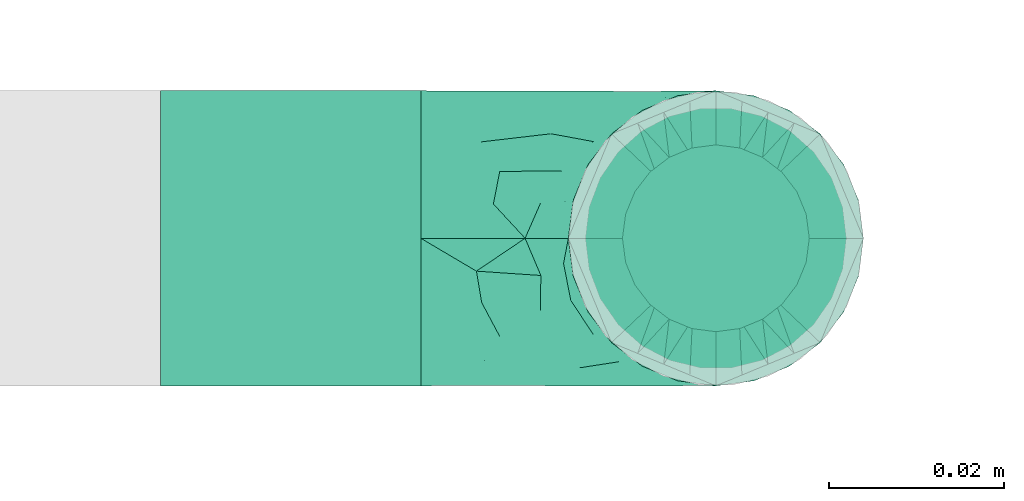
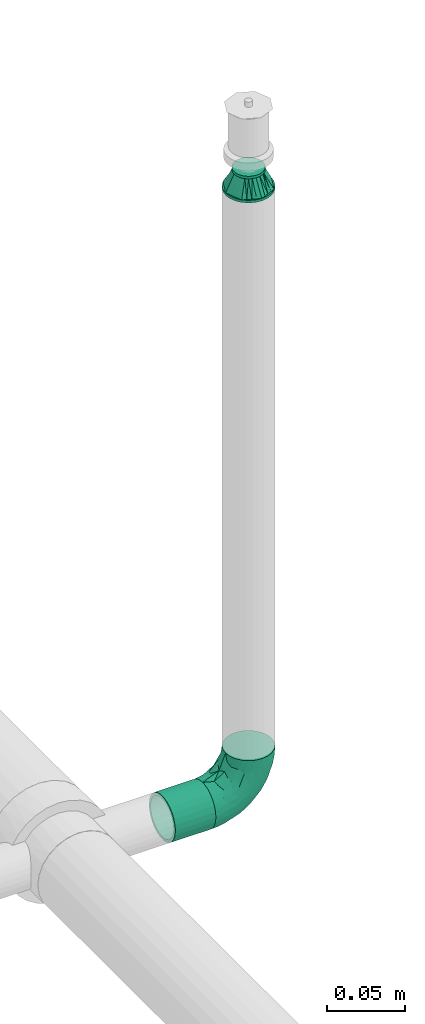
# One storey, part 106 of 157: 2 flow fittings, 1 flow segment.
"""IFC2X3 building model written with IfcOpenShell, lengths in millimetres."""

from ifc_helpers import new_model, entity, si_unit, converted_unit, derived_unit, direction, frame, origin_with_axes, origin_2d_with_axis, place, context, subcontext, project, spatial, hollow_circle, extrude, open_shell, surface_model, source, transform, mapped, type_object, element, save


model = new_model("IFC2X3")

# Units and contexts
model_context = context("Model", 3, precision=0.01, world=frame((0.0, 4.29681676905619e-09, 0.0)), true_north=direction((4.01073788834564e-13, 1.0)))
plan_context = context("Plan", 3, precision=0.01, world=frame((0.0, 4.29681676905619e-09, 0.0)), true_north=direction((4.01073788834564e-13, 1.0)))
body_context = subcontext(model_context, "Body", "Model", "MODEL_VIEW")
ifc_project = project(units=[converted_unit("PLANEANGLEUNIT", "DEGREE", entity("IfcPositiveLengthMeasure", 0.0174532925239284), si_unit("PLANEANGLEUNIT", "RADIAN"), dimensions=[0, 0, 0, 0, 0, 0, 0]), si_unit("AREAUNIT", "SQUARE_METRE"), si_unit("LENGTHUNIT", "METRE", prefix="MILLI"), si_unit("MASSUNIT", "GRAM", prefix="KILO"), si_unit("POWERUNIT", "WATT"), si_unit("PRESSUREUNIT", "PASCAL"), si_unit("FORCEUNIT", "NEWTON", prefix="KILO"), si_unit("ELECTRICCURRENTUNIT", "AMPERE"), si_unit("THERMODYNAMICTEMPERATUREUNIT", "DEGREE_CELSIUS"), si_unit("TIMEUNIT", "SECOND"), si_unit("VOLUMEUNIT", "CUBIC_METRE"), derived_unit("LINEARVELOCITYUNIT", [(si_unit("LENGTHUNIT", "METRE"), 1), (si_unit("TIMEUNIT", "SECOND"), -1)]), derived_unit("VOLUMETRICFLOWRATEUNIT", [(si_unit("VOLUMEUNIT", "CUBIC_METRE"), 1), (si_unit("TIMEUNIT", "SECOND"), -1)]), derived_unit("THERMALTRANSMITTANCEUNIT", [(si_unit("POWERUNIT", "WATT"), 1), (si_unit("THERMODYNAMICTEMPERATUREUNIT", "KELVIN"), -1), (si_unit("AREAUNIT", "SQUARE_METRE"), -1)])], contexts=[model_context, plan_context])

# Site, building, storey
site_placement = place(None, frame((0.0, -4.29681676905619e-09, 0.0), z_axis=(0.0, 0.0, 1.0), x_axis=(1.0, 0.0, 0.0)))
site = spatial("IfcSite", under=ifc_project, at=site_placement, CompositionType="ELEMENT")
building_placement = place(site_placement, frame((0.0, 4.29681676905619e-09, 0.0), z_axis=(0.0, 0.0, 1.0), x_axis=(1.0, 0.0, 0.0)))
building = spatial("IfcBuilding", under=site, at=building_placement, Name="mc-building", CompositionType="ELEMENT")
storey_placement = place(building_placement, frame((0.0, 0.0, 204000.0), z_axis=(0.0, 0.0, 1.0), x_axis=(1.0, 0.0, 0.0)))
storey = spatial("IfcBuildingStorey", under=building, at=storey_placement, Name="Nivå D", CompositionType="ELEMENT", Elevation=204000.0)

# Flow fittings
pipe_fitting_type_1 = type_object("IfcPipeFittingType", Name="magi_pipe_fe_elbow_short_001", PredefinedType="BEND")
shared_shape_1 = source(origin_with_axes(), body_context, "Body", "SurfaceModel", [
    surface_model("IfcShellBasedSurfaceModel", [(-33.8, 8.45, -14.63583), (-33.8, 4.37404, -16.32415), (-33.8, 11.9501, -11.9501), (-33.8, -11.9501, -11.9501), (-33.8, -14.63583, -8.45), (-33.8, -8.45, -14.63583), (-33.8, 0.0, -16.9), (-33.8, -4.37404, -16.32415), (-33.8, -4.37404, 16.32415), (-33.8, 0.0, 16.9), (-33.8, -8.45, 14.63583), (-33.8, 16.32415, -4.37404), (-33.8, 14.63583, -8.45), (-33.8, -16.32415, -4.37404), (-33.8, -16.9, 0.0), (-33.8, -16.32415, 4.37404), (-33.8, 11.9501, 11.9501), (-33.8, 14.63583, 8.45), (-33.8, 16.32415, 4.37404), (-33.8, 4.37404, 16.32415), (-33.8, 8.45, 14.63583), (-33.8, -14.63583, 8.45), (-33.8, -11.9501, 11.9501), (-33.8, 16.9, 0.0), (-11.9501, 33.8, -11.9501), (0.0, 33.8, -16.9), (-4.37404, 33.8, -16.32415), (-8.45, 33.8, -14.63583), (-14.63583, 33.8, -8.45), (-16.32415, 33.8, -4.37404), (14.63583, 33.8, -8.45), (8.45, 33.8, 14.63583), (16.32415, 33.8, -4.37404), (8.45, 33.8, -14.63583), (11.9501, 33.8, -11.9501), (4.37404, 33.8, -16.32415), (16.32415, 33.8, 4.37404), (16.9, 33.8, 0.0), (-11.9501, 33.8, 11.9501), (-16.32415, 33.8, 4.37404), (-14.63583, 33.8, 8.45), (-8.45, 33.8, 14.63583), (-4.37404, 33.8, 16.32415), (11.9501, 33.8, 11.9501), (14.63583, 33.8, 8.45), (0.0, 33.8, 16.9), (4.37404, 33.8, 16.32415), (-16.9, 33.8, 0.0), (-24.79389, -13.12945, 9.48721), (-22.19287, -9.75018, 12.59315), (-24.09897, -14.97035, 0.0), (-14.93934, -10.76256, 8.5297), (-22.46095, -14.75051, 5.27077), (14.75051, 22.46094, 5.27077), (11.9251, 13.23888, 4.33236), (13.04069, 14.39795, 0.0), (7.71387, 13.68847, 11.55891), (9.75018, 22.19287, 12.59315), (4.10169, 13.0571, 14.04018), (-24.84007, -6.39063, 15.2048), (-25.81779, -2.23879, 16.61097), (-23.66549, 2.59054, 16.87119), (-26.50418, 14.06512, 11.08152), (-24.21253, 17.66365, 7.72657), (-29.58514, 15.86957, 7.00283), (-6.17382, -7.5455, 0.0), (-13.23888, -11.9251, 4.33236), (-14.39795, -13.04069, 0.0), (-17.81434, 18.87373, 11.97104), (-6.30846, 29.15138, 15.82987), (-2.31622, 25.28002, 16.85849), (-29.23923, 10.23435, 13.77053), (-1.45439, -2.85688, 7.61475), (-0.28326, 0.34872, 10.09509), (-5.74484, -4.04709, 10.4122), (-4.41137, 11.31918, 16.59407), (-8.39727, 3.10034, 15.7812), (-1.72649, 9.1306, 15.53089), (-17.39909, 24.75344, 7.64977), (-26.19233, 20.0512, 0.0), (-28.14518, 17.29657, 4.25857), (-26.05147, 6.6281, 15.96447), (-5.87354, 16.61944, 16.86968), (-12.51807, 12.51807, 16.48937), (-10.06312, 7.38516, 16.81295), (-3.01882, 3.01882, 13.81718), (-13.0571, -4.10169, 14.04018), (-16.82553, -0.15166, 16.38038), (10.76256, 14.93934, 8.5297), (13.12945, 24.79389, 9.48721), (6.39063, 24.84007, 15.2048), (2.23879, 25.81779, 16.61097), (-13.68847, -7.71387, 11.55891), (14.97035, 24.09897, 0.0), (-7.30894, 22.89991, 16.09489), (-10.67958, 26.17414, 14.008), (-12.78295, 18.26924, 15.06066), (-13.88562, 22.45231, 12.93244), (-18.04944, 15.16501, 14.04434), (-23.11658, 20.08178, 4.02986), (-21.84989, 21.84989, 0.0), (-18.55817, 25.48277, 3.93065), (-13.95142, 26.94732, 11.03289), (-18.57098, 7.23906, 16.59756), (-16.58335, 4.14122, 16.89279), (-17.96666, 11.46709, 15.63151), (-9.84453, 17.54304, 16.18938), (0.15166, 16.82553, 16.38038), (-23.27207, 11.47201, 14.23154), (3.84842, 5.86994, 10.70473), (-8.0212, -7.54413, 7.93275), (1.00345, -2.19508, 4.57414), (5.13203, 3.01004, 5.90201), (5.24161, 1.7543, 2.53265), (8.70457, 7.04947, 3.99182), (-20.0512, 26.19233, 0.0), (8.4852, 8.76699, 7.09296), (-4.55488, -6.72064, 4.90681), (2.05031, -2.05031, 0.0), (7.5455, 6.17382, 0.0), (-26.75399, 2.1369, -16.845), (-14.61995, 24.73803, -11.27736), (-28.45274, -13.45335, -9.81895), (-26.00469, 6.63555, -15.96645), (-23.06726, 20.04573, -4.26202), (-13.80647, -4.26506, -14.17873), (-14.67501, -0.21081, -16.07388), (-6.7902, -0.2828, -13.8478), (-24.53586, 11.08096, -14.13417), (-26.72048, 14.00837, -11.05776), (10.0967, 24.44989, -12.75976), (5.83237, 21.40218, -15.03047), (6.66249, 28.54238, -15.38093), (-20.38182, 15.48705, -12.74596), (12.53268, 21.23441, -9.15363), (12.54494, 15.67504, -5.54878), (9.7522, 12.89279, -8.66343), (-15.65186, 19.64213, -13.01327), (-12.03528, 20.66498, -14.67665), (-15.61907, 15.61906, -14.83879), (-25.56551, -15.26206, 0.0), (-24.65452, -15.12934, -5.50955), (13.45335, 28.45274, -9.81895), (15.12934, 24.65452, -5.50955), (-7.35442, -8.31014, -5.65563), (-15.67504, -12.54494, -5.54878), (-24.44989, -10.0967, -12.75976), (0.16522, 0.41303, -9.71728), (-5.70658, -5.33066, -8.89288), (-5.13869, -2.37198, -11.53565), (-21.23441, -12.53268, -9.15363), (0.71146, 7.93863, -14.09382), (0.21081, 14.67501, -16.07388), (3.49291, 14.42772, -14.76381), (-24.89911, -2.13088, -16.591), (-28.54238, -6.66249, -15.38093), (-18.44386, -7.71663, -13.26957), (2.13088, 24.89911, -16.591), (-28.64342, 17.44413, -2.89318), (1.70017, -1.28722, -5.09504), (-16.57067, 26.81947, -7.36596), (-17.69055, 27.4263, -3.76405), (-12.89279, -9.7522, -8.66343), (-5.96611, 5.96611, -15.95814), (-20.53709, 20.09345, -8.28985), (-2.1369, 26.75399, -16.845), (-6.89872, 24.58781, -16.02578), (-10.60739, 26.53157, -13.98044), (-21.40218, -5.83237, -15.03047), (2.93192, 5.89627, -11.55917), (6.89393, 12.61842, -11.82233), (5.58056, 5.95325, -8.79455), (-3.99512, 18.61798, -16.89635), (8.31014, 7.35442, -5.65563), (-9.1383, 9.86148, -16.89041), (-9.99983, 16.02119, -16.39699), (-16.68576, 9.78031, -16.34199), (-27.01915, 16.61158, -7.12979), (15.26206, 25.56551, 0.0), (-18.61798, 3.99512, -16.89635), (-19.37495, 27.82495, 0.0), (-12.61842, -6.89393, -11.82233), (-18.84705, 19.14018, -10.96545)], [open_shell([[[0, 1, 2]], [[3, 4, 5]], [[6, 7, 5]], [[8, 9, 10]], [[1, 6, 2]], [[11, 12, 2]], [[4, 2, 6]], [[2, 13, 10]], [[5, 4, 6]], [[2, 4, 13]], [[14, 15, 13]], [[11, 2, 16]], [[11, 17, 18]], [[11, 16, 17]], [[19, 20, 16]], [[16, 2, 10]], [[19, 16, 10]], [[21, 22, 15]], [[22, 13, 15]], [[22, 10, 13]], [[10, 9, 19]], [[11, 18, 23]], [[24, 25, 26]], [[24, 26, 27]], [[24, 28, 29]], [[25, 24, 30]], [[31, 32, 24]], [[33, 30, 34]], [[33, 35, 25]], [[25, 30, 33]], [[32, 30, 24]], [[32, 36, 37]], [[38, 24, 29]], [[39, 40, 29]], [[40, 38, 29]], [[38, 41, 42]], [[38, 31, 24]], [[31, 38, 42]], [[36, 43, 44]], [[36, 32, 43]], [[31, 45, 46]], [[32, 31, 43]], [[42, 45, 31]], [[39, 29, 47]], [[22, 48, 49]], [[15, 14, 50]], [[51, 48, 52]], [[53, 54, 55]], [[48, 22, 21]], [[15, 52, 21]], [[56, 57, 58]], [[49, 10, 22]], [[49, 59, 10]], [[9, 60, 61]], [[62, 63, 64]], [[65, 66, 67]], [[57, 43, 31]], [[62, 68, 63]], [[42, 69, 70]], [[20, 71, 16]], [[8, 60, 9]], [[72, 73, 74]], [[75, 76, 77]], [[16, 62, 17]], [[40, 39, 78]], [[79, 23, 80]], [[64, 18, 17]], [[9, 61, 19]], [[19, 81, 20]], [[82, 83, 84]], [[74, 85, 86]], [[59, 86, 87]], [[88, 89, 57]], [[90, 31, 46]], [[44, 53, 36]], [[46, 45, 91]], [[54, 53, 88]], [[44, 89, 53]], [[92, 86, 49]], [[89, 44, 43]], [[10, 59, 8]], [[53, 55, 93]], [[93, 36, 53]], [[66, 52, 67]], [[94, 82, 70]], [[95, 96, 94]], [[97, 98, 96]], [[79, 99, 100]], [[41, 38, 95]], [[101, 100, 99]], [[68, 78, 63]], [[42, 41, 69]], [[23, 18, 80]], [[95, 94, 69]], [[78, 101, 99]], [[38, 102, 95]], [[70, 45, 42]], [[97, 95, 102]], [[15, 50, 52]], [[90, 57, 31]], [[57, 90, 58]], [[81, 19, 61]], [[103, 104, 84]], [[105, 81, 103]], [[38, 40, 102]], [[106, 96, 83]], [[94, 106, 82]], [[91, 70, 107]], [[71, 62, 16]], [[62, 108, 98]], [[86, 59, 49]], [[67, 52, 50]], [[60, 59, 87]], [[92, 49, 51]], [[86, 85, 76]], [[91, 90, 46]], [[37, 36, 93]], [[107, 77, 58]], [[107, 58, 90]], [[58, 85, 109]], [[110, 74, 92]], [[72, 74, 110]], [[66, 51, 52]], [[72, 111, 112]], [[113, 114, 112]], [[56, 88, 57]], [[52, 48, 21]], [[49, 48, 51]], [[57, 89, 43]], [[53, 89, 88]], [[103, 81, 61]], [[71, 81, 108]], [[18, 64, 80]], [[63, 78, 99]], [[47, 115, 101]], [[101, 115, 100]], [[40, 78, 102]], [[68, 102, 78]], [[97, 96, 95]], [[105, 98, 108]], [[103, 84, 83]], [[107, 70, 82]], [[76, 84, 87]], [[82, 84, 75]], [[70, 91, 45]], [[90, 91, 107]], [[59, 60, 8]], [[61, 60, 87]], [[73, 85, 74]], [[109, 112, 116]], [[103, 61, 104]], [[105, 103, 83]], [[96, 105, 83]], [[81, 105, 108]], [[96, 98, 105]], [[62, 98, 68]], [[61, 87, 104]], [[87, 84, 104]], [[86, 76, 87]], [[77, 76, 85]], [[58, 77, 85]], [[75, 77, 107]], [[82, 75, 107]], [[76, 75, 84]], [[81, 71, 20]], [[62, 71, 108]], [[95, 69, 41]], [[70, 69, 94]], [[62, 64, 17]], [[80, 63, 99]], [[63, 80, 64]], [[80, 99, 79]], [[66, 65, 117]], [[110, 66, 117]], [[112, 114, 116]], [[118, 117, 65]], [[110, 92, 51]], [[112, 111, 113]], [[119, 55, 54]], [[74, 86, 92]], [[58, 109, 56]], [[116, 56, 109]], [[66, 110, 51]], [[72, 110, 117]], [[111, 72, 117]], [[73, 112, 109]], [[117, 118, 111]], [[113, 111, 118]], [[118, 119, 113]], [[114, 119, 54]], [[119, 114, 113]], [[116, 54, 88]], [[54, 116, 114]], [[116, 88, 56]], [[112, 73, 72]], [[85, 73, 109]], [[78, 39, 101]], [[47, 101, 39]], [[102, 68, 97]], [[97, 68, 98]], [[82, 106, 83]], [[94, 96, 106]], [[1, 120, 6]], [[28, 24, 121]], [[3, 122, 4]], [[0, 123, 1]], [[100, 124, 79]], [[125, 126, 127]], [[128, 2, 129]], [[130, 131, 132]], [[128, 129, 133]], [[134, 135, 136]], [[137, 138, 139]], [[128, 0, 2]], [[67, 140, 141]], [[134, 142, 143]], [[141, 13, 4]], [[144, 65, 145]], [[146, 3, 5]], [[147, 148, 149]], [[145, 141, 150]], [[151, 152, 153]], [[154, 7, 6]], [[5, 155, 146]], [[150, 146, 156]], [[155, 5, 7]], [[143, 135, 134]], [[35, 157, 25]], [[23, 79, 158]], [[148, 159, 144]], [[160, 161, 29]], [[145, 162, 144]], [[163, 152, 151]], [[29, 28, 160]], [[121, 164, 160]], [[33, 34, 130]], [[25, 165, 26]], [[26, 165, 166]], [[142, 34, 30]], [[24, 27, 167]], [[124, 161, 164]], [[157, 35, 132]], [[155, 154, 168]], [[123, 0, 128]], [[169, 170, 171]], [[172, 157, 152]], [[26, 166, 27]], [[132, 35, 33]], [[142, 130, 34]], [[168, 154, 126]], [[136, 135, 173]], [[133, 137, 139]], [[2, 12, 129]], [[170, 131, 130]], [[30, 32, 143]], [[172, 174, 175]], [[176, 123, 128]], [[158, 177, 11]], [[135, 55, 119]], [[167, 27, 166]], [[175, 166, 172]], [[137, 167, 138]], [[122, 141, 4]], [[140, 14, 13]], [[32, 37, 178]], [[170, 130, 134]], [[152, 157, 131]], [[165, 157, 172]], [[153, 170, 151]], [[152, 163, 174]], [[168, 125, 156]], [[122, 146, 150]], [[120, 154, 6]], [[179, 174, 126]], [[179, 126, 154]], [[126, 163, 127]], [[162, 145, 150]], [[140, 13, 141]], [[32, 178, 143]], [[55, 143, 178]], [[177, 129, 12]], [[128, 133, 139]], [[176, 128, 139]], [[120, 123, 179]], [[121, 160, 28]], [[161, 100, 180]], [[166, 175, 138]], [[121, 24, 167]], [[161, 47, 29]], [[79, 124, 158]], [[124, 164, 177]], [[161, 124, 100]], [[136, 171, 170]], [[127, 163, 151]], [[147, 171, 159]], [[148, 144, 162]], [[127, 151, 169]], [[127, 181, 125]], [[129, 177, 164]], [[12, 11, 177]], [[159, 65, 144]], [[67, 141, 145]], [[143, 55, 135]], [[135, 119, 173]], [[123, 120, 1]], [[154, 120, 179]], [[157, 165, 25]], [[166, 165, 172]], [[172, 152, 174]], [[176, 139, 175]], [[126, 174, 163]], [[176, 174, 179]], [[174, 176, 175]], [[123, 176, 179]], [[150, 181, 162]], [[127, 149, 181]], [[181, 148, 162]], [[159, 148, 147]], [[171, 136, 173]], [[170, 134, 136]], [[159, 171, 173]], [[171, 147, 169]], [[169, 147, 149]], [[151, 170, 169]], [[164, 182, 129]], [[182, 121, 137]], [[181, 149, 148]], [[169, 149, 127]], [[182, 137, 133]], [[167, 137, 121]], [[166, 138, 167]], [[175, 139, 138]], [[129, 182, 133]], [[121, 182, 164]], [[161, 160, 164]], [[47, 161, 180]], [[177, 158, 124]], [[23, 158, 11]], [[130, 132, 33]], [[157, 132, 131]], [[143, 142, 30]], [[130, 142, 134]], [[154, 155, 7]], [[146, 155, 168]], [[146, 122, 3]], [[141, 122, 150]], [[152, 131, 153]], [[159, 119, 118]], [[67, 145, 65]], [[170, 153, 131]], [[119, 159, 173]], [[159, 118, 65]], [[156, 125, 181]], [[126, 125, 168]], [[150, 156, 181]], [[168, 156, 146]]])]),
])
flow_fitting_1_placement = place(storey_placement, frame((531240.35, 413380.00018, 2690.0), z_axis=(0.0, 1.0, 0.0), x_axis=(0.0, 0.0, -1.0)))
element("IfcFlowFitting", 1, at=flow_fitting_1_placement, inside=storey, type_object=pipe_fitting_type_1, Name="magi_pipe_fe_elbow_short_001", context=body_context, shape_type="MappedRepresentation", body=[
    mapped(shared_shape_1, transform((0.0, 0.0, 0.0), scale=1.0)),
])
pipe_fitting_type_2 = type_object("IfcPipeFittingType", Name="magi_pipe_fe_reducer_centric_short_NOR", PredefinedType="TRANSITION")
shared_shape_2 = source(origin_with_axes(), body_context, "Body", "SurfaceModel", [
    surface_model("IfcShellBasedSurfaceModel", [(-2.0, -7.56604, -7.56604), (-2.0, -10.33541, -2.76936), (-2.0, -5.35, -9.26647), (-2.0, 5.35, -9.26647), (-2.0, 10.33541, -2.76936), (-2.0, 7.56604, -7.56604), (12.4, 11.9501, 11.9501), (12.4, 0.0, 16.9), (12.4, 11.9501, -11.9501), (12.4, 16.9, 0.0), (0.0, -10.7, 0.0), (0.0, -5.35, 9.26647), (0.0, -5.35, -9.26647), (0.0, 10.7, 0.0), (12.4, 15.66253, -2.98753), (12.4, 8.96258, -13.18758), (0.0, 6.6875, -6.94985), (12.4, -15.66253, -2.98753), (12.4, -16.9, 0.0), (12.4, 5.97505, -14.42505), (0.0, 5.35, -9.26647), (12.4, 14.42505, -5.97505), (0.0, 8.025, -4.63324), (0.0, 9.3625, -2.31662), (0.0, -9.3625, -2.31662), (0.0, -8.025, -4.63324), (12.4, -14.42505, -5.97505), (12.4, 13.18758, -8.96258), (12.4, -13.18758, -8.96258), (12.4, -11.9501, -11.9501), (0.0, -6.6875, -6.94985), (12.4, -8.96258, -13.18758), (12.4, -5.97505, -14.42505), (12.4, -15.66253, 2.98753), (12.4, -8.96258, 13.18758), (0.0, -6.6875, 6.94985), (12.4, -11.9501, 11.9501), (12.4, 15.66253, 2.98753), (12.4, -5.97505, 14.42505), (12.4, -14.42505, 5.97505), (0.0, -8.025, 4.63324), (0.0, -9.3625, 2.31662), (0.0, 9.3625, 2.31662), (0.0, 8.025, 4.63324), (12.4, 14.42505, 5.97505), (12.4, -13.18758, 8.96258), (12.4, 13.18758, 8.96258), (0.0, 6.6875, 6.94985), (12.4, 8.96258, 13.18758), (0.0, 5.35, 9.26647), (12.4, 5.97505, 14.42505), (14.4, 4.37404, -16.32415), (14.4, 8.45, -14.63583), (14.4, 11.9501, -11.9501), (14.4, -8.45, -14.63583), (14.4, 16.32415, -4.37404), (14.4, 16.32415, 4.37404), (14.4, 14.63583, -8.45), (14.4, 0.0, -16.9), (14.4, -4.37404, -16.32415), (14.4, -11.9501, -11.9501), (14.4, -16.32415, -4.37404), (14.4, -14.63583, -8.45), (14.4, -16.32415, 4.37404), (14.4, 16.9, 0.0), (14.4, 14.63583, 8.45), (14.4, 11.9501, 11.9501), (14.4, 4.37404, 16.32415), (14.4, 8.45, 14.63583), (14.4, 0.0, 16.9), (14.4, -14.63583, 8.45), (14.4, -16.9, 0.0), (14.4, -8.45, 14.63583), (14.4, -11.9501, 11.9501), (14.4, -4.37404, 16.32415), (12.4, 4.37404, 16.32415), (12.4, -14.63583, 8.45), (12.4, 16.32415, 4.37404), (12.4, 8.45, 14.63583), (12.4, 14.63583, 8.45), (12.4, -8.45, 14.63583), (12.4, -4.37404, 16.32415), (12.4, -16.32415, 4.37404), (12.4, -16.32415, -4.37404), (12.4, -8.45, -14.63583), (12.4, 16.32415, -4.37404), (12.4, 14.63583, -8.45), (12.4, 8.45, -14.63583), (12.4, 4.37404, -16.32415), (12.4, 0.0, -16.9), (12.4, -14.63583, -8.45), (12.4, -4.37404, -16.32415), (-2.0, 2.76936, 10.33541), (-2.0, 0.0, 10.7), (-2.0, 5.35, 9.26647), (-2.0, 7.56604, 7.56604), (-2.0, 9.26647, 5.35), (-2.0, 10.33541, 2.76936), (-2.0, -10.33541, 2.76936), (-2.0, -2.76936, 10.33541), (-2.0, -7.56604, 7.56604), (-2.0, -5.35, 9.26647), (-2.0, -9.26647, 5.35), (-2.0, -10.7, 0.0), (-2.0, 9.26647, -5.35), (-2.0, 2.76936, -10.33541), (-2.0, -9.26647, -5.35), (-2.0, 0.0, -10.7), (-2.0, -2.76936, -10.33541), (-2.0, 10.7, 0.0), (0.0, 0.0, -10.7), (0.0, 2.76936, -10.33541), (0.0, 10.33541, -2.76936), (0.0, 7.56604, -7.56604), (0.0, -10.33541, -2.76936), (0.0, 9.26647, -5.35), (0.0, 0.0, 10.7), (0.0, -2.76936, -10.33541), (0.0, -7.56604, -7.56604), (0.0, -9.26647, -5.35), (0.0, 10.33541, 2.76936), (0.0, 9.26647, 5.35), (0.0, 7.56604, 7.56604), (0.0, 2.76936, 10.33541), (0.0, -7.56604, 7.56604), (0.0, -10.33541, 2.76936), (0.0, -9.26647, 5.35), (0.0, -2.76936, 10.33541), (0.0, 2.675, -9.26647), (0.0, -2.675, -9.26647), (12.4, 2.98753, -15.66253), (0.0, 0.0, -9.26647), (12.4, -2.98753, -15.66253), (0.0, -2.675, 9.26647), (0.0, 2.675, 9.26647), (12.4, -2.98753, 15.66253), (0.0, 0.0, 9.26647), (12.4, 2.98753, 15.66253)], [open_shell([[[0, 1, 2]], [[3, 4, 5]], [[6, 7, 8]], [[8, 9, 6]], [[10, 11, 12]], [[13, 9, 14]], [[15, 16, 8]], [[17, 18, 10]], [[15, 19, 20]], [[21, 22, 23]], [[24, 25, 26]], [[22, 21, 27]], [[28, 26, 25]], [[29, 30, 31]], [[12, 32, 31]], [[10, 18, 33]], [[34, 35, 36]], [[37, 9, 13]], [[34, 38, 11]], [[39, 40, 41]], [[42, 43, 44]], [[40, 39, 45]], [[46, 44, 43]], [[6, 47, 48]], [[49, 50, 48]], [[51, 52, 53]], [[54, 51, 53]], [[53, 55, 56]], [[55, 53, 57]], [[53, 56, 54]], [[58, 54, 59]], [[58, 51, 54]], [[60, 61, 62]], [[61, 60, 54]], [[54, 63, 61]], [[56, 55, 64]], [[56, 65, 66]], [[56, 66, 67]], [[67, 63, 54]], [[67, 66, 68]], [[63, 67, 69]], [[69, 70, 63]], [[71, 61, 63]], [[70, 72, 73]], [[70, 69, 72]], [[72, 69, 74]], [[54, 56, 67]], [[75, 76, 7]], [[77, 75, 78]], [[6, 79, 77]], [[6, 77, 78]], [[76, 75, 77]], [[80, 76, 36]], [[80, 81, 7]], [[7, 76, 80]], [[82, 76, 77]], [[82, 83, 18]], [[82, 77, 84]], [[77, 85, 8]], [[8, 85, 86]], [[8, 87, 88]], [[84, 77, 8]], [[88, 89, 8]], [[83, 29, 90]], [[29, 83, 84]], [[84, 89, 91]], [[83, 82, 84]], [[8, 89, 84]], [[85, 77, 9]], [[83, 61, 18]], [[90, 62, 83]], [[54, 29, 84]], [[90, 29, 60]], [[59, 84, 91]], [[83, 62, 61]], [[61, 71, 18]], [[59, 54, 84]], [[60, 29, 54]], [[60, 62, 90]], [[58, 59, 91]], [[91, 89, 58]], [[88, 51, 89]], [[87, 52, 88]], [[57, 8, 86]], [[87, 8, 53]], [[55, 86, 85]], [[87, 53, 52]], [[52, 51, 88]], [[64, 55, 85]], [[57, 86, 55]], [[57, 53, 8]], [[9, 64, 85]], [[89, 51, 58]], [[77, 56, 9]], [[79, 65, 77]], [[68, 6, 78]], [[79, 6, 66]], [[67, 78, 75]], [[77, 65, 56]], [[56, 64, 9]], [[67, 68, 78]], [[66, 6, 68]], [[66, 65, 79]], [[69, 67, 75]], [[75, 7, 69]], [[81, 74, 7]], [[80, 72, 81]], [[70, 36, 76]], [[80, 36, 73]], [[63, 76, 82]], [[80, 73, 72]], [[72, 74, 81]], [[71, 63, 82]], [[70, 76, 63]], [[70, 73, 36]], [[18, 71, 82]], [[7, 74, 69]], [[92, 1, 93]], [[94, 1, 92]], [[95, 96, 97]], [[95, 97, 94]], [[98, 93, 1]], [[99, 100, 101]], [[99, 93, 100]], [[100, 98, 102]], [[93, 98, 100]], [[98, 1, 103]], [[94, 97, 1]], [[1, 97, 4]], [[5, 4, 104]], [[4, 3, 1]], [[105, 1, 3]], [[1, 0, 106]], [[2, 107, 108]], [[2, 1, 105]], [[105, 107, 2]], [[4, 97, 109]], [[20, 110, 111]], [[112, 20, 113]], [[114, 20, 112]], [[112, 113, 115]], [[116, 114, 112]], [[110, 12, 117]], [[110, 20, 12]], [[118, 114, 119]], [[114, 118, 12]], [[20, 114, 12]], [[112, 13, 120]], [[120, 121, 122]], [[120, 122, 123]], [[116, 112, 123]], [[123, 122, 49]], [[116, 124, 114]], [[125, 124, 126]], [[10, 114, 125]], [[124, 127, 11]], [[125, 114, 124]], [[127, 124, 116]], [[123, 112, 120]], [[1, 114, 103]], [[106, 119, 1]], [[12, 0, 2]], [[106, 0, 118]], [[117, 2, 108]], [[1, 119, 114]], [[114, 10, 103]], [[117, 12, 2]], [[118, 0, 12]], [[118, 119, 106]], [[110, 117, 108]], [[108, 107, 110]], [[105, 111, 107]], [[3, 20, 105]], [[115, 5, 104]], [[3, 5, 113]], [[112, 104, 4]], [[3, 113, 20]], [[20, 111, 105]], [[13, 112, 4]], [[115, 104, 112]], [[115, 113, 5]], [[109, 13, 4]], [[107, 111, 110]], [[97, 120, 109]], [[96, 121, 97]], [[49, 95, 94]], [[96, 95, 122]], [[123, 94, 92]], [[97, 121, 120]], [[120, 13, 109]], [[123, 49, 94]], [[122, 95, 49]], [[122, 121, 96]], [[116, 123, 92]], [[92, 93, 116]], [[99, 127, 93]], [[101, 11, 99]], [[126, 100, 102]], [[101, 100, 124]], [[125, 102, 98]], [[101, 124, 11]], [[11, 127, 99]], [[10, 125, 98]], [[126, 102, 125]], [[126, 124, 100]], [[103, 10, 98]], [[93, 127, 116]], [[18, 7, 36]], [[18, 29, 8]], [[89, 8, 29]], [[18, 8, 7]], [[13, 11, 49]], [[13, 20, 12]], [[13, 12, 11]], [[24, 26, 17]], [[10, 24, 17]], [[16, 15, 20]], [[30, 12, 31]], [[23, 14, 21]], [[19, 128, 20]], [[27, 8, 16]], [[32, 12, 129]], [[30, 28, 25]], [[130, 131, 128]], [[129, 132, 32]], [[16, 22, 27]], [[13, 14, 23]], [[128, 19, 130]], [[130, 89, 131]], [[131, 132, 129]], [[89, 132, 131]], [[28, 30, 29]], [[42, 44, 37]], [[13, 42, 37]], [[35, 34, 11]], [[47, 49, 48]], [[41, 33, 39]], [[38, 133, 11]], [[45, 36, 35]], [[50, 49, 134]], [[47, 46, 43]], [[135, 136, 133]], [[134, 137, 50]], [[35, 40, 45]], [[10, 33, 41]], [[133, 38, 135]], [[135, 7, 136]], [[136, 137, 134]], [[7, 137, 136]], [[46, 47, 6]]])]),
])
flow_fitting_2_placement = place(storey_placement, frame((531240.35, 413380.00018, 3172.54800000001), z_axis=(0.0, -1.0, 0.0), x_axis=(0.0, 0.0, -1.0)))
element("IfcFlowFitting", 2, at=flow_fitting_2_placement, inside=storey, type_object=pipe_fitting_type_2, Name="magi_pipe_fe_reducer_centric_short_NOR", context=body_context, shape_type="MappedRepresentation", body=[
    mapped(shared_shape_2, transform((0.0, 0.0, 0.0), scale=1.0)),
])

# Flow segment
pipe_segment_type = type_object("IfcPipeSegmentType", Name="Stålrør normaltykke", PredefinedType="RIGIDSEGMENT")
shared_shape_3 = source(origin_with_axes(), body_context, "Body", "SweptSolid", [
    extrude(hollow_circle(Radius=16.9, WallThickness=2.0, at=origin_2d_with_axis()), frame((0.0, 0.0, 0.0), z_axis=(1.0, 0.0, 0.0), x_axis=(0.0, 1.0, 0.0)), (0.0, 0.0, 1.0), 29.8),
])
flow_segment_placement = place(storey_placement, frame((531206.55, 413380.00018, 2690.0), z_axis=(0.0, 0.0, 1.0), x_axis=(-1.0, 0.0, 0.0)))
element("IfcFlowSegment", 3, at=flow_segment_placement, inside=storey, type_object=pipe_segment_type, Name="Stålrør normaltykke", context=body_context, shape_type="MappedRepresentation", body=[
    mapped(shared_shape_3, transform((0.0, 0.0, 0.0), scale=1.0)),
])

save(model, "model.ifc")
